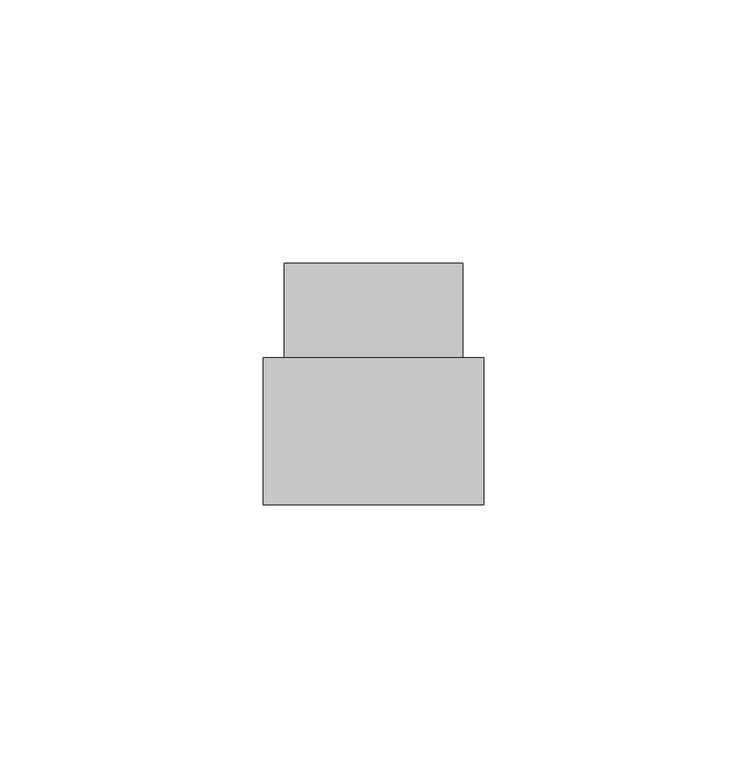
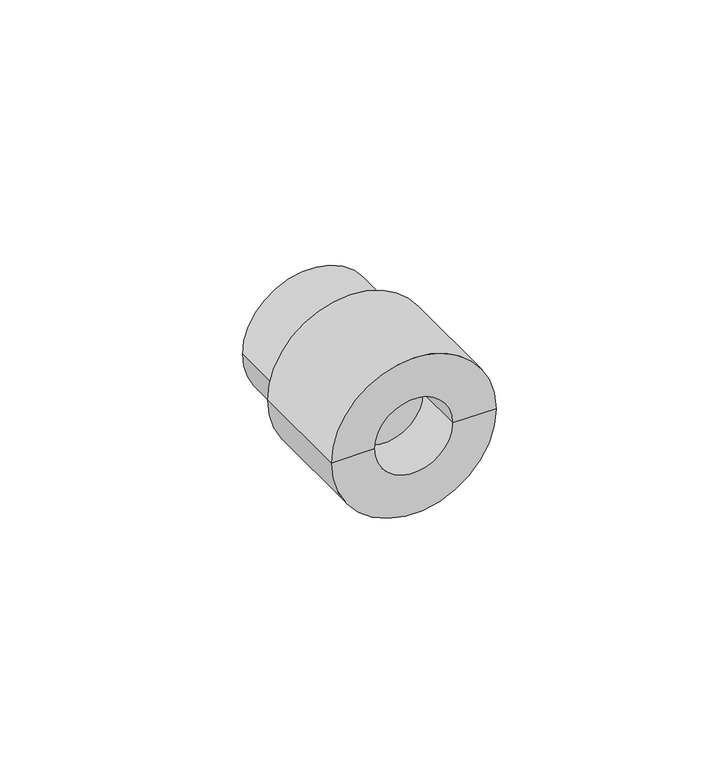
"""IFC4 building model written with IfcOpenShell, lengths in millimetres: pipe fitting geometry, NIRON RED termofusion roscado enlace rosca hembra : Estándar."""

from ifc_helpers import new_model, si_unit, frame, origin, place, context, project, spatial, polyline, circle_curve, source, transform, mapped, element, save
from ifc_brep_helpers import plane_surface, cylinder_surface, revolved_surface, advanced_brep


def pipe_fitting_68553eb5(model_context):
    return source(origin(), model_context, "Body", "AdvancedBrep", [
        advanced_brep(
        [(17.0, 46.0, 0.0), (-17.0, 46.0, 0.0), (0.0, 46.0, 0.0), (21.0, 0.0, 0.0), (-21.0, 0.0, 0.0), (-21.0, 28.0, 0.0), (21.0, 28.0, 0.0), (10.0, 0.0, 0.0), (-10.0, 0.0, 0.0), (17.0, 28.0, 0.0), (-17.0, 28.0, 0.0), (-10.0, 13.2, 0.0), (10.0, 13.2, 0.0)],
        [
            (0, 1, circle_curve(frame((0.0, 46.0, 0.0), z_axis=(0.0, 1.0, 0.0), x_axis=(-1.0, 0.0, 0.0)), 17.0)),
            (1, 2),
            (2, 0),
            (1, 0, circle_curve(frame((0.0, 46.0, 0.0), z_axis=(0.0, 1.0, 0.0), x_axis=(-1.0, 0.0, 0.0)), 17.0)),
            (3, 4, circle_curve(frame((0.0, 0.0, 0.0), z_axis=(0.0, 1.0, 0.0), x_axis=(-1.0, 0.0, 0.0)), 21.0)),
            (4, 5),
            (5, 6, circle_curve(frame((0.0, 28.0, 0.0), z_axis=(0.0, -1.0, 0.0), x_axis=(-1.0, 0.0, 0.0)), 21.0)),
            (6, 3),
            (4, 3, circle_curve(frame((0.0, 0.0, 0.0), z_axis=(0.0, 1.0, 0.0), x_axis=(-1.0, 0.0, 0.0)), 21.0)),
            (6, 5, circle_curve(frame((0.0, 28.0, 0.0), z_axis=(0.0, -1.0, 0.0), x_axis=(-1.0, 0.0, 0.0)), 21.0)),
            (3, 7),
            (7, 8, circle_curve(frame((0.0, 0.0, 0.0), z_axis=(0.0, 1.0, 0.0), x_axis=(1.0, 0.0, 0.0)), 10.0)),
            (8, 4),
            (8, 7, circle_curve(frame((0.0, 0.0, 0.0), z_axis=(0.0, 1.0, 0.0), x_axis=(1.0, 0.0, 0.0)), 10.0)),
            (0, 9),
            (9, 10, circle_curve(frame((0.0, 28.0, 0.0), z_axis=(0.0, 1.0, 0.0), x_axis=(-1.0, 0.0, 0.0)), 17.0)),
            (10, 1),
            (10, 9, circle_curve(frame((0.0, 28.0, 0.0), z_axis=(0.0, 1.0, 0.0), x_axis=(-1.0, 0.0, 0.0)), 17.0)),
            (5, 10),
            (9, 6),
            (11, 12, circle_curve(frame((0.0, 13.2, 0.0), z_axis=(0.0, -1.0, 0.0), x_axis=(1.0, 0.0, 0.0)), 10.0)),
            (12, 11, circle_curve(frame((0.0, 13.2, 0.0), z_axis=(0.0, -1.0, 0.0), x_axis=(1.0, 0.0, 0.0)), 10.0)),
            (11, 8),
            (7, 12),
        ],
        [
            plane_surface(frame((0.0, 46.0, 0.0), z_axis=(0.0, 1.0, 0.0), x_axis=(-1.0, 0.0, 0.0))),
            cylinder_surface(frame((0.0, 56.0, 0.0), z_axis=(0.0, -1.0, 0.0), x_axis=(-1.0, 0.0, 0.0)), 21.0),
            plane_surface(frame((0.0, 0.0, 0.0), z_axis=(0.0, -1.0, 0.0), x_axis=(-1.0, 0.0, 0.0))),
            cylinder_surface(frame((0.0, 56.0, 0.0), z_axis=(0.0, -1.0, 0.0), x_axis=(-1.0, 0.0, 0.0)), 17.0),
            plane_surface(frame((0.0, 28.0, 0.0), z_axis=(0.0, 1.0, 0.0), x_axis=(-1.0, 0.0, 0.0))),
            plane_surface(frame((10.0, 13.2, 0.0), z_axis=(0.0, -1.0, 0.0), x_axis=(0.0, 0.0, -1.0))),
            revolved_surface(polyline([(10.0, 0.0, 0.0), (10.0, 13.2, 0.0)]), (0.0, 13.2, 0.0), (0.0, -1.0, 0.0)),
        ],
        [
            (0, [[1, 2, 3]]),
            (0, [[-2, 4, -3]]),
            (1, [[5, 6, 7, 8]]),
            (1, [[-6, 9, -8, 10]]),
            (2, [[-5, 11, 12, 13]]),
            (2, [[-9, -13, 14, -11]]),
            (3, [[-1, 15, 16, 17]]),
            (3, [[-4, -17, 18, -15]]),
            (4, [[-7, 19, -16, 20]]),
            (4, [[-10, -20, -18, -19]]),
            (5, [[21, 22]]),
            (6, [[-21, 23, -12, 24]]),
            (6, [[-22, -24, -14, -23]]),
        ],
    ),
    ])


if __name__ == "__main__":
    model = new_model("IFC4")
    model_context = context("Model", 3, world=origin())
    ifc_project = project(units=[si_unit("LENGTHUNIT", "METRE", prefix="MILLI")], contexts=[model_context])
    site = spatial("IfcSite", under=ifc_project)
    building = spatial("IfcBuilding", under=site)
    placement = place(None, origin())
    pipe_fitting_shape = pipe_fitting_68553eb5(model_context)
    element("IfcPipeFitting", 1, ObjectType="NIRON RED termofusion roscado enlace rosca hembra : Estándar", at=placement, inside=building, context=model_context, shape_type="MappedRepresentation", body=[
        mapped(pipe_fitting_shape, transform((0.0, 0.0, 0.0), x_axis=(1.0, 0.0, 0.0), y_axis=(0.0, 1.0, 0.0), z_axis=(0.0, 0.0, 1.0))),
    ])
    save(model, "model.ifc")
